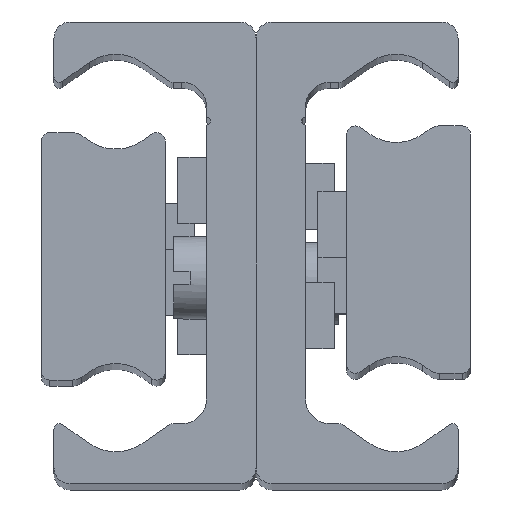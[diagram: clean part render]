
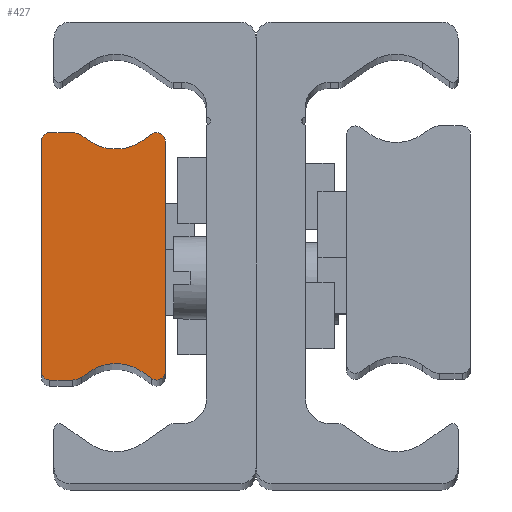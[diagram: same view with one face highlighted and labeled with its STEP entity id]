
A CAD part, top view. The second image highlights one B-rep face of the part: STEP entity #427.
In plain terms, the highlighted planar face has unit normal (0, 0, 1) as drawn and (0, 0, -1) by its records, which use the part's own axes.
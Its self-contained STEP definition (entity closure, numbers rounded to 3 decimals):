
#427 = ADVANCED_FACE( '', ( #854 ), #855, .F. );
#854 = FACE_OUTER_BOUND( '', #1272, .T. );
#855 = PLANE( '', #1273 );
#1272 = EDGE_LOOP( '', ( #2206, #2207, #2208, #2209, #2210, #2211, #2212, #2213, #2214, #2215, #2216, #2217, #2218, #2219, #2220, #2221 ) );
#1273 = AXIS2_PLACEMENT_3D( '', #2222, #2223, #2224 );
#2206 = ORIENTED_EDGE( '', *, *, #2641, .F. );
#2207 = ORIENTED_EDGE( '', *, *, #2585, .F. );
#2208 = ORIENTED_EDGE( '', *, *, #2762, .F. );
#2209 = ORIENTED_EDGE( '', *, *, #2429, .F. );
#2210 = ORIENTED_EDGE( '', *, *, #2570, .F. );
#2211 = ORIENTED_EDGE( '', *, *, #2455, .T. );
#2212 = ORIENTED_EDGE( '', *, *, #2729, .F. );
#2213 = ORIENTED_EDGE( '', *, *, #2652, .F. );
#2214 = ORIENTED_EDGE( '', *, *, #2763, .F. );
#2215 = ORIENTED_EDGE( '', *, *, #2592, .F. );
#2216 = ORIENTED_EDGE( '', *, *, #2714, .F. );
#2217 = ORIENTED_EDGE( '', *, *, #2387, .T. );
#2218 = ORIENTED_EDGE( '', *, *, #2764, .F. );
#2219 = ORIENTED_EDGE( '', *, *, #2765, .F. );
#2220 = ORIENTED_EDGE( '', *, *, #2711, .F. );
#2221 = ORIENTED_EDGE( '', *, *, #2747, .F. );
#2222 = CARTESIAN_POINT( '', ( 0.5, -7., -210. ) );
#2223 = DIRECTION( '', ( 0., 0., 1. ) );
#2224 = DIRECTION( '', ( 1., 0., 0. ) );
#2387 = EDGE_CURVE( '', #2799, #2797, #2800, .T. );
#2429 = EDGE_CURVE( '', #2871, #2873, #2874, .T. );
#2455 = EDGE_CURVE( '', #2917, #2915, #2918, .T. );
#2570 = EDGE_CURVE( '', #2917, #2871, #3109, .T. );
#2585 = EDGE_CURVE( '', #3129, #3131, #3132, .T. );
#2592 = EDGE_CURVE( '', #3139, #3141, #3142, .T. );
#2641 = EDGE_CURVE( '', #3131, #3213, #3214, .T. );
#2652 = EDGE_CURVE( '', #3227, #3229, #3230, .T. );
#2711 = EDGE_CURVE( '', #3305, #3307, #3308, .T. );
#2714 = EDGE_CURVE( '', #2799, #3139, #3311, .T. );
#2729 = EDGE_CURVE( '', #3229, #2915, #3330, .T. );
#2747 = EDGE_CURVE( '', #3213, #3305, #3351, .T. );
#2762 = EDGE_CURVE( '', #2873, #3129, #3367, .T. );
#2763 = EDGE_CURVE( '', #3141, #3227, #3368, .T. );
#2764 = EDGE_CURVE( '', #3369, #2797, #3370, .T. );
#2765 = EDGE_CURVE( '', #3307, #3369, #3371, .T. );
#2797 = VERTEX_POINT( '', #3404 );
#2799 = VERTEX_POINT( '', #3407 );
#2800 = CIRCLE( '', #3408, 2.778 );
#2871 = VERTEX_POINT( '', #3497 );
#2873 = VERTEX_POINT( '', #3500 );
#2874 = CIRCLE( '', #3501, 1. );
#2915 = VERTEX_POINT( '', #3546 );
#2917 = VERTEX_POINT( '', #3549 );
#2918 = CIRCLE( '', #3550, 2.778 );
#3109 = LINE( '', #3806, #3807 );
#3129 = VERTEX_POINT( '', #3833 );
#3131 = VERTEX_POINT( '', #3836 );
#3132 = CIRCLE( '', #3837, 0.5 );
#3139 = VERTEX_POINT( '', #3847 );
#3141 = VERTEX_POINT( '', #3850 );
#3142 = CIRCLE( '', #3851, 0.523 );
#3213 = VERTEX_POINT( '', #3949 );
#3214 = LINE( '', #3950, #3951 );
#3227 = VERTEX_POINT( '', #3969 );
#3229 = VERTEX_POINT( '', #3972 );
#3230 = CIRCLE( '', #3973, 0.523 );
#3305 = VERTEX_POINT( '', #4079 );
#3307 = VERTEX_POINT( '', #4082 );
#3308 = LINE( '', #4083, #4084 );
#3311 = LINE( '', #4088, #4089 );
#3330 = LINE( '', #4112, #4113 );
#3351 = CIRCLE( '', #4139, 0.5 );
#3367 = LINE( '', #4160, #4161 );
#3368 = LINE( '', #4162, #4163 );
#3369 = VERTEX_POINT( '', #4164 );
#3370 = LINE( '', #4165, #4166 );
#3371 = CIRCLE( '', #4167, 1. );
#3404 = CARTESIAN_POINT( '', ( 2.907, -6.997, -210. ) );
#3407 = CARTESIAN_POINT( '', ( 6.093, -6.997, -210. ) );
#3408 = AXIS2_PLACEMENT_3D( '', #4208, #4209, #4210 );
#3497 = CARTESIAN_POINT( '', ( 2.446, 7.319, -210. ) );
#3500 = CARTESIAN_POINT( '', ( 1.873, 7.5, -210. ) );
#3501 = AXIS2_PLACEMENT_3D( '', #4269, #4270, #4271 );
#3546 = CARTESIAN_POINT( '', ( 6.093, 6.997, -210. ) );
#3549 = CARTESIAN_POINT( '', ( 2.907, 6.997, -210. ) );
#3550 = AXIS2_PLACEMENT_3D( '', #4313, #4314, #4315 );
#3806 = CARTESIAN_POINT( '', ( 2.907, 6.997, -210. ) );
#3807 = VECTOR( '', #4456, 1000. );
#3833 = CARTESIAN_POINT( '', ( 0.5, 7.5, -210. ) );
#3836 = CARTESIAN_POINT( '', ( 0., 7., -210. ) );
#3837 = AXIS2_PLACEMENT_3D( '', #4470, #4471, #4472 );
#3847 = CARTESIAN_POINT( '', ( 6.677, -7.405, -210. ) );
#3850 = CARTESIAN_POINT( '', ( 7.5, -6.977, -210. ) );
#3851 = AXIS2_PLACEMENT_3D( '', #4477, #4478, #4479 );
#3949 = CARTESIAN_POINT( '', ( 0., -7., -210. ) );
#3950 = CARTESIAN_POINT( '', ( 0., 7., -210. ) );
#3951 = VECTOR( '', #4528, 1000. );
#3969 = CARTESIAN_POINT( '', ( 7.5, 6.977, -210. ) );
#3972 = CARTESIAN_POINT( '', ( 6.677, 7.405, -210. ) );
#3973 = AXIS2_PLACEMENT_3D( '', #4538, #4539, #4540 );
#4079 = CARTESIAN_POINT( '', ( 0.5, -7.5, -210. ) );
#4082 = CARTESIAN_POINT( '', ( 1.873, -7.5, -210. ) );
#4083 = CARTESIAN_POINT( '', ( 0.5, -7.5, -210. ) );
#4084 = VECTOR( '', #4600, 1000. );
#4088 = CARTESIAN_POINT( '', ( 6.093, -6.997, -210. ) );
#4089 = VECTOR( '', #4602, 1000. );
#4112 = CARTESIAN_POINT( '', ( 6.677, 7.405, -210. ) );
#4113 = VECTOR( '', #4619, 1000. );
#4139 = AXIS2_PLACEMENT_3D( '', #4637, #4638, #4639 );
#4160 = CARTESIAN_POINT( '', ( 1.873, 7.5, -210. ) );
#4161 = VECTOR( '', #4648, 1000. );
#4162 = CARTESIAN_POINT( '', ( 7.5, -6.977, -210. ) );
#4163 = VECTOR( '', #4649, 1000. );
#4164 = CARTESIAN_POINT( '', ( 2.446, -7.319, -210. ) );
#4165 = CARTESIAN_POINT( '', ( 2.446, -7.319, -210. ) );
#4166 = VECTOR( '', #4650, 1000. );
#4167 = AXIS2_PLACEMENT_3D( '', #4651, #4652, #4653 );
#4208 = CARTESIAN_POINT( '', ( 4.5, -9.272, -210. ) );
#4209 = DIRECTION( '', ( 0., 0., 1. ) );
#4210 = DIRECTION( '', ( 1., 0., 0. ) );
#4269 = CARTESIAN_POINT( '', ( 1.873, 6.5, -210. ) );
#4270 = DIRECTION( '', ( 0., 0., 1. ) );
#4271 = DIRECTION( '', ( 1., 0., 0. ) );
#4313 = CARTESIAN_POINT( '', ( 4.5, 9.272, -210. ) );
#4314 = DIRECTION( '', ( 0., 0., 1. ) );
#4315 = DIRECTION( '', ( 1., 0., 0. ) );
#4456 = DIRECTION( '', ( -0.819, 0.574, 0. ) );
#4470 = CARTESIAN_POINT( '', ( 0.5, 7., -210. ) );
#4471 = DIRECTION( '', ( 0., 0., 1. ) );
#4472 = DIRECTION( '', ( 1., 0., 0. ) );
#4477 = CARTESIAN_POINT( '', ( 6.977, -6.977, -210. ) );
#4478 = DIRECTION( '', ( 0., 0., 1. ) );
#4479 = DIRECTION( '', ( 1., 0., 0. ) );
#4528 = DIRECTION( '', ( 0., -1., 0. ) );
#4538 = CARTESIAN_POINT( '', ( 6.977, 6.977, -210. ) );
#4539 = DIRECTION( '', ( 0., 0., 1. ) );
#4540 = DIRECTION( '', ( 1., 0., 0. ) );
#4600 = DIRECTION( '', ( 1., 0., 0. ) );
#4602 = DIRECTION( '', ( 0.819, -0.574, 0. ) );
#4619 = DIRECTION( '', ( -0.819, -0.574, 0. ) );
#4637 = CARTESIAN_POINT( '', ( 0.5, -7., -210. ) );
#4638 = DIRECTION( '', ( 0., 0., 1. ) );
#4639 = DIRECTION( '', ( 1., 0., 0. ) );
#4648 = DIRECTION( '', ( -1., 0., 0. ) );
#4649 = DIRECTION( '', ( 0., 1., 0. ) );
#4650 = DIRECTION( '', ( 0.819, 0.574, 0. ) );
#4651 = CARTESIAN_POINT( '', ( 1.873, -6.5, -210. ) );
#4652 = DIRECTION( '', ( 0., 0., 1. ) );
#4653 = DIRECTION( '', ( 1., 0., 0. ) );
